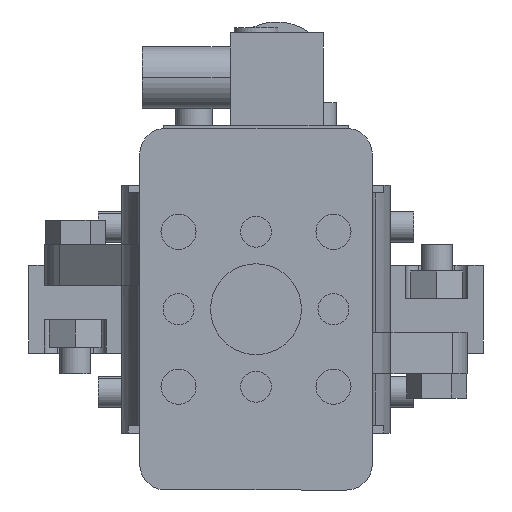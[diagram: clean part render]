
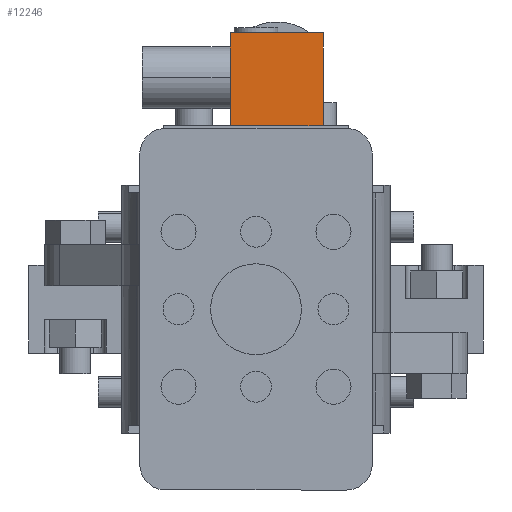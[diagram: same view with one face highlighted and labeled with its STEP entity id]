
A CAD part, front view. The second image highlights one B-rep face of the part: STEP entity #12246.
In plain terms, the highlighted planar face has unit normal (0, -1, 0) as drawn and (0, 1, 0) by its records, which use the part's own axes.
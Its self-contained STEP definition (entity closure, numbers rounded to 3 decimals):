
#565 = LINE ( 'NONE', #17146, #16620 ) ;
#857 = VERTEX_POINT ( 'NONE', #1899 ) ;
#915 = CARTESIAN_POINT ( 'NONE',  ( -13., 23.5, 0. ) ) ;
#1403 = VERTEX_POINT ( 'NONE', #5324 ) ;
#1899 = CARTESIAN_POINT ( 'NONE',  ( 5., 23.5, 18. ) ) ;
#2307 = LINE ( 'NONE', #14341, #6465 ) ;
#2590 = PLANE ( 'NONE',  #11583 ) ;
#2808 = LINE ( 'NONE', #10830, #6461 ) ;
#3091 = DIRECTION ( 'NONE',  ( -1., 0., 0. ) ) ;
#3118 = ORIENTED_EDGE ( 'NONE', *, *, #11480, .F. ) ;
#3201 = LINE ( 'NONE', #13221, #18740 ) ;
#3572 = EDGE_CURVE ( 'NONE', #857, #1403, #2307, .T. ) ;
#4694 = EDGE_CURVE ( 'NONE', #1403, #4843, #2808, .T. ) ;
#4843 = VERTEX_POINT ( 'NONE', #915 ) ;
#5049 = DIRECTION ( 'NONE',  ( 0., 0., -1. ) ) ;
#5324 = CARTESIAN_POINT ( 'NONE',  ( 5., 23.5, 0. ) ) ;
#5637 = CARTESIAN_POINT ( 'NONE',  ( -13., 23.5, 18. ) ) ;
#5743 = DIRECTION ( 'NONE',  ( 1., 0., 0. ) ) ;
#5744 = ORIENTED_EDGE ( 'NONE', *, *, #17003, .F. ) ;
#6461 = VECTOR ( 'NONE', #3091, 1000. ) ;
#6465 = VECTOR ( 'NONE', #5049, 1000. ) ;
#7310 = ORIENTED_EDGE ( 'NONE', *, *, #4694, .T. ) ;
#7922 = DIRECTION ( 'NONE',  ( 0., 0., -1. ) ) ;
#10830 = CARTESIAN_POINT ( 'NONE',  ( -13., 23.5, 0. ) ) ;
#11480 = EDGE_CURVE ( 'NONE', #857, #14491, #3201, .T. ) ;
#11583 = AXIS2_PLACEMENT_3D ( 'NONE', #13474, #15014, #5743 ) ;
#12246 = ADVANCED_FACE ( 'NONE', ( #12899 ), #2590, .F. ) ;
#12899 = FACE_OUTER_BOUND ( 'NONE', #18867, .T. ) ;
#13221 = CARTESIAN_POINT ( 'NONE',  ( -13., 23.5, 18. ) ) ;
#13474 = CARTESIAN_POINT ( 'NONE',  ( -13., 23.5, 18. ) ) ;
#14341 = CARTESIAN_POINT ( 'NONE',  ( 5., 23.5, 18. ) ) ;
#14491 = VERTEX_POINT ( 'NONE', #5637 ) ;
#15014 = DIRECTION ( 'NONE',  ( 0., -1., 0. ) ) ;
#15802 = ORIENTED_EDGE ( 'NONE', *, *, #3572, .T. ) ;
#16620 = VECTOR ( 'NONE', #7922, 1000. ) ;
#17003 = EDGE_CURVE ( 'NONE', #14491, #4843, #565, .T. ) ;
#17146 = CARTESIAN_POINT ( 'NONE',  ( -13., 23.5, 18. ) ) ;
#18740 = VECTOR ( 'NONE', #19456, 1000. ) ;
#18867 = EDGE_LOOP ( 'NONE', ( #7310, #5744, #3118, #15802 ) ) ;
#19456 = DIRECTION ( 'NONE',  ( -1., 0., 0. ) ) ;
